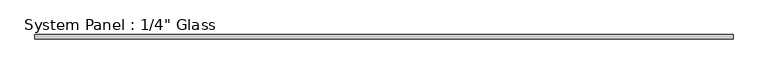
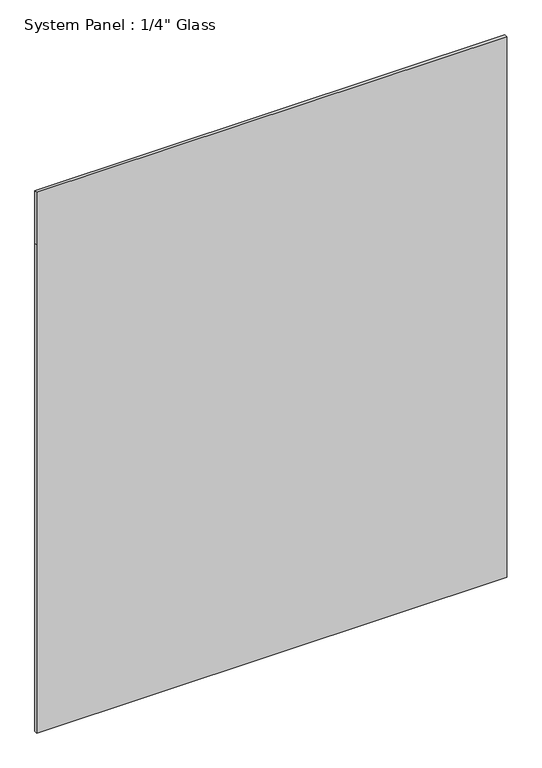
"""IFC4 building model written with IfcOpenShell, lengths in millimetres: plate geometry."""

from ifc_helpers import new_model, si_unit, frame, origin, place, context, project, spatial, polyline, outline, extrude, source, transform, mapped, element, save


def plate_87ee5b28(model_context):
    return source(origin(), model_context, "Body", "SweptSolid", [
        extrude(outline(polyline([(0.0, -508.4047066), (0.0, 508.4047066), (1116.4405973, 508.4047066), (1237.0923678, 508.4047066), (1237.0923678, -508.4047066), (1116.4405973, -508.4047066), (0.0, -508.4047066)])), frame((0.0, -3.175, 0.0), z_axis=(0.0, 1.0, 0.0), x_axis=(0.0, 0.0, 1.0)), (0.0, 0.0, 1.0), 6.35),
    ])


if __name__ == "__main__":
    model = new_model("IFC4")
    model_context = context("Model", 3, world=origin())
    ifc_project = project(units=[si_unit("LENGTHUNIT", "METRE", prefix="MILLI")], contexts=[model_context])
    site = spatial("IfcSite", under=ifc_project)
    building = spatial("IfcBuilding", under=site)
    placement = place(None, origin())
    plate_shape = plate_87ee5b28(model_context)
    element("IfcPlate", 1, ObjectType="System Panel : 1/4\" Glass", at=placement, inside=building, context=model_context, shape_type="MappedRepresentation", body=[
        mapped(plate_shape, transform((0.0, 0.0, 0.0), x_axis=(1.0, 0.0, 0.0), y_axis=(0.0, 1.0, 0.0), z_axis=(0.0, 0.0, 1.0))),
    ])
    save(model, "model.ifc")
